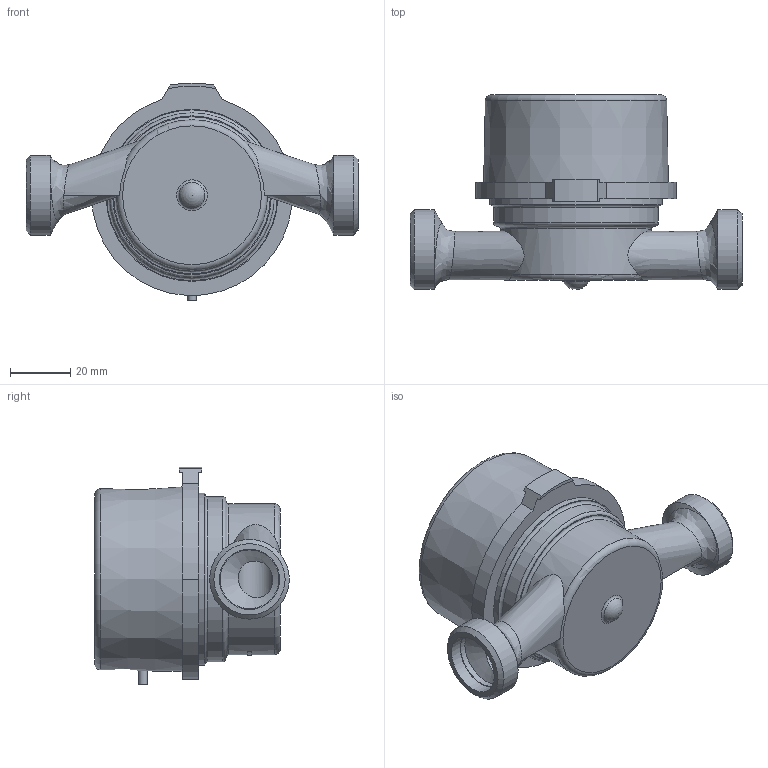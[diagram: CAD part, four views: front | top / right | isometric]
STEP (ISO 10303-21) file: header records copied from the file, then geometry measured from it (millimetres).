
FILE_DESCRIPTION(('TFLEX Exchange Step'),'2;1');
FILE_NAME('Meter VLF-SVEU-15-3.110.stp', '2023-08-31T14:43:27+03:00',('denis'),('Unknown organisation'),'TFLEX Exchange 2023.0','T-FLEX CAD','Unknown authorisation');
FILE_SCHEMA( ('AUTOMOTIVE_DESIGN { 1 0 10303 214 1 1 1 1 }') );
Length unit declared in the file: millimetre
Products named in the file (1): Nodes
Bounding box: 110 x 64.5 x 72.17 mm (x, y, z)
Volume: 164563.9 mm3; surface area: 38206.2 mm2
Topology: 92 solids, 92 shells, 1300 faces, 3286 edges, 2190 vertices
Faces by surface type: plane 811, bspline 429, cylinder 42, cone 7, torus 6, extrusion 4, sphere 1
Full cylindrical faces by diameter (mm): 3 x2, 11.5 x2, 19.5 x2, 20 x2, 26.4 x2, 50 x1, 52 x1, 54.6 x1, 57 x1
Entity records: 48080 total; most frequent: CARTESIAN_POINT 19481, ORIENTED_EDGE 6570, DIRECTION 4272, EDGE_CURVE 3285, VECTOR 2286, LINE 2282, VERTEX_POINT 2190, EDGE_LOOP 1385
